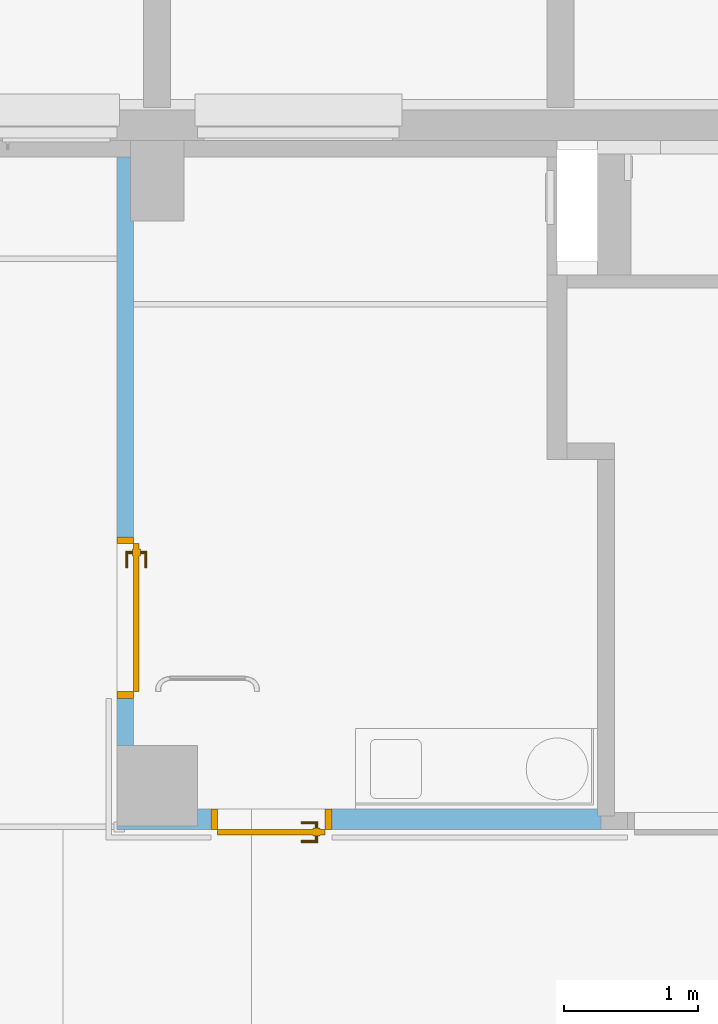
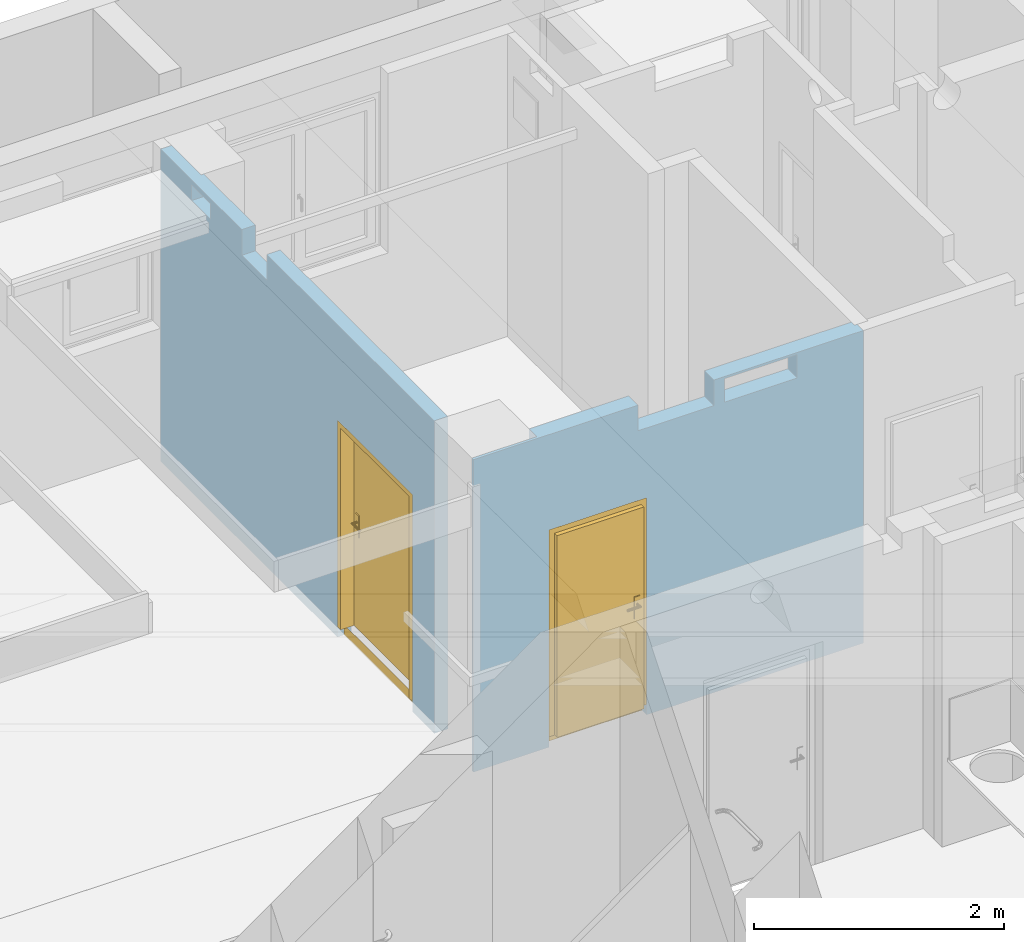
# One storey, part 63 of 84: 2 doors, 8 openings, plus 2 elements that do not belong to this part.
"""IFC4 building model written with IfcOpenShell, lengths in metres."""

from ifc_helpers import new_model, entity, si_unit, converted_unit, derived_unit, frame, frame_2d, origin, origin_with_axes, place, context, subcontext, project, spatial, polyline, rectangle, outline, extrude, closed_shell, open_shell, surface_model, source, transform, mapped, material, layer, layer_set, layer_usage, type_object, element, fill, save


model = new_model("IFC4")

# Units and contexts
model_context = context("Model", 3, precision=1e-05, world=origin())
body_context = subcontext(model_context, "Body", "Model", "MODEL_VIEW")
ifc_project = project(units=[si_unit("LENGTHUNIT", "METRE"), si_unit("AREAUNIT", "SQUARE_METRE"), si_unit("VOLUMEUNIT", "CUBIC_METRE"), si_unit("MASSUNIT", "GRAM", prefix="KILO"), converted_unit("PLANEANGLEUNIT", "DEGREE", entity("IfcPlaneAngleMeasure", 0.0174532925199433), si_unit("PLANEANGLEUNIT", "RADIAN"), dimensions=[0, 0, 0, 0, 0, 0, 0]), derived_unit("THERMALTRANSMITTANCEUNIT", [(si_unit("POWERUNIT", "WATT"), 1), (si_unit("THERMODYNAMICTEMPERATUREUNIT", "KELVIN"), -1), (si_unit("LENGTHUNIT", "METRE"), -2)]), derived_unit("VOLUMETRICFLOWRATEUNIT", [(si_unit("LENGTHUNIT", "METRE"), 3), (converted_unit("TIMEUNIT", "hour", entity("IfcTimeMeasure", 3600.0), si_unit("TIMEUNIT", "SECOND"), dimensions=[0, 0, 1, 0, 0, 0, 0]), -1), (si_unit("LENGTHUNIT", "METRE"), -1)])], contexts=[model_context])

# Site, building, storey
site_placement = place(None, origin())
site = spatial("IfcSite", under=ifc_project, at=site_placement, Name="3. ASŘ", CompositionType="ELEMENT")
building_placement = place(site_placement, origin())
building = spatial("IfcBuilding", under=site, at=building_placement, Name="Pavilon C", CompositionType="ELEMENT")
storey_placement = place(building_placement, frame((0.0, 0.0, -3.3)))
storey = spatial("IfcBuildingStorey", under=building, at=storey_placement, Name="Půdorys 1.PP", CompositionType="ELEMENT", Elevation=-3.3)

# Wall, openings, door
ifc_material_1 = material(Name="SDK - 1 KCE + DVOJITÉ OPLÁŠTĚNÍ")
ifc_layer_1 = layer(ifc_material_1, 0.125)
ifc_layer_set_1 = layer_set([ifc_layer_1])
ifc_layer_usage_1 = layer_usage(ifc_layer_set_1, "AXIS2", "POSITIVE", 0.0)
wall_1_placement = place(storey_placement, frame((17.7, 14.875, -0.1), z_axis=(0.0, 0.0, 1.0), x_axis=(0.0, -1.0, 0.0)))
wall_1 = element("IfcWall", 1, at=wall_1_placement, inside=storey, material=ifc_layer_usage_1, Name="SDK - 1 KCE + DVOJITÉ OPLÁŠTĚNÍ", context=body_context, shape_type="SweptSolid", body=[
    extrude(rectangle(XDim=4.375, YDim=0.125, at=frame_2d((2.1875, 0.0625), x_axis=(1.0, 0.0))), origin_with_axes(), (0.0, 0.0, 1.0), 3.05),
])
opening_1_placement = place(wall_1_placement, frame((4.025, 0.125, 0.0), z_axis=(0.0, -1.0, 0.0), x_axis=(0.0, 0.0, 1.0)))
opening_1 = element("IfcOpeningElement", 2, at=opening_1_placement, cuts=wall_1, Name="Dveřní otvor", ObjectType="Opening", context=body_context, shape_type="SweptSolid", body=[
    extrude(outline(polyline([(0.0, 1.2), (2.12, 1.2), (2.12, 0.0), (0.0, 0.0), (0.0, 1.2)])), origin_with_axes(), (0.0, 0.0, 1.0), 0.125),
])
opening_2_placement = place(wall_1_placement, frame((0.475, 0.125, 0.0), z_axis=(0.0, -1.0, 0.0), x_axis=(0.0, 0.0, 1.0)))
element("IfcOpeningElement", 3, at=opening_2_placement, cuts=wall_1, Name="Stěnová nika", ObjectType="Opening", context=body_context, shape_type="SweptSolid", body=[
    extrude(outline(polyline([(0.0, 0.475), (3.05, 0.475), (3.05, 0.0), (0.0, 0.0), (0.0, 0.475)])), origin_with_axes(), (0.0, 0.0, 1.0), 0.025),
])
opening_3_placement = place(wall_1_placement, frame((0.498176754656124, 0.0, 2.85), z_axis=(0.0, 1.0, 0.0), x_axis=(0.0, 0.0, 1.0)))
element("IfcOpeningElement", 4, at=opening_3_placement, cuts=wall_1, Name="UT", ObjectType="Opening", context=body_context, shape_type="SweptSolid", body=[
    extrude(outline(polyline([(0.0, 0.3), (0.15, 0.3), (0.15, 0.0), (0.0, 0.0), (0.0, 0.3)])), origin_with_axes(), (0.0, 0.0, 1.0), 0.125),
])
opening_4_placement = place(wall_1_placement, frame((1.29817675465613, 0.0, 2.8), z_axis=(0.0, 1.0, 0.0), x_axis=(0.0, 0.0, 1.0)))
element("IfcOpeningElement", 5, at=opening_4_placement, cuts=wall_1, Name="VZT", ObjectType="Opening", context=body_context, shape_type="SweptSolid", body=[
    extrude(outline(polyline([(0.0, 0.4), (0.25, 0.4), (0.25, 0.0), (0.0, 0.0), (0.0, 0.4)])), origin_with_axes(), (0.0, 0.0, 1.0), 0.125),
])
door_type_1 = type_object("IfcDoorType", Name="I.D008", OperationType="NOTDEFINED", ParameterTakesPrecedence=False, PredefinedType="DOOR")
shared_shape_1 = source(origin_with_axes(), body_context, "Body", "SurfaceModel", [
    surface_model("IfcShellBasedSurfaceModel", [(0.0, 0.0625, 0.0), (1.2, 0.0625, 0.0), (1.2, 0.0625, 0.1), (0.0, 0.0625, 0.1)], [open_shell([[[0, 1, 2, 3]]], orient=[[False]])]),
    surface_model("IfcShellBasedSurfaceModel", [(0.0, 0.125, 2.12), (0.0, 0.125, 0.101), (0.05, 0.125, 0.101), (0.05, 0.125, 2.12), (0.0, 0.0, 0.101), (0.0, 2.41584530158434e-16, 2.12), (0.05, 2.41584530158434e-16, 2.12), (0.05, 0.0, 0.101)], [closed_shell([[[0, 1, 2, 3]], [[4, 5, 6, 7]], [[1, 0, 5, 4]], [[2, 1, 4, 7]], [[3, 2, 7, 6]], [[0, 3, 6, 5]]], orient=[[False], [False], [False], [False], [False], [False]])]),
    surface_model("IfcShellBasedSurfaceModel", [(1.15, 0.125, 2.12), (1.15, 0.125, 0.101), (1.2, 0.125, 0.101), (1.2, 0.125, 2.12), (1.15, 0.0, 0.101), (1.15, 2.41584530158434e-16, 2.12), (1.2, 2.41584530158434e-16, 2.12), (1.2, 0.0, 0.101)], [closed_shell([[[0, 1, 2, 3]], [[4, 5, 6, 7]], [[1, 0, 5, 4]], [[2, 1, 4, 7]], [[3, 2, 7, 6]], [[0, 3, 6, 5]]], orient=[[False], [False], [False], [False], [False], [False]])]),
    surface_model("IfcShellBasedSurfaceModel", [(0.05, 0.125, 2.12), (0.05, 0.125, 2.07), (1.15, 0.125, 2.07), (1.15, 0.125, 2.12), (0.05, 2.41584530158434e-16, 2.07), (0.05, 2.41584530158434e-16, 2.12), (1.15, 2.41584530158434e-16, 2.12), (1.15, 2.41584530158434e-16, 2.07)], [closed_shell([[[0, 1, 2, 3]], [[4, 5, 6, 7]], [[1, 0, 5, 4]], [[2, 1, 4, 7]], [[3, 2, 7, 6]], [[0, 3, 6, 5]]], orient=[[False], [False], [False], [False], [False], [False]])]),
    surface_model("IfcShellBasedSurfaceModel", [(0.05, 0.165, 2.07), (0.05, 0.165, 0.101), (1.15, 0.165, 0.101), (1.15, 0.165, 2.07), (0.05, 0.125, 0.101), (0.05, 0.125, 2.07), (1.15, 0.125, 2.07), (1.15, 0.125, 0.101)], [closed_shell([[[0, 1, 2, 3]], [[4, 5, 6, 7]], [[1, 0, 5, 4]], [[2, 1, 4, 7]], [[3, 2, 7, 6]], [[0, 3, 6, 5]]], orient=[[False], [False], [False], [False], [False], [False]])]),
    surface_model("IfcShellBasedSurfaceModel", [(0.09, 0.125, 1.226), (0.09, 0.125, 1.011), (0.14, 0.125, 1.011), (0.14, 0.125, 1.226), (0.09, 0.115, 1.011), (0.09, 0.115, 1.226), (0.14, 0.115, 1.226), (0.14, 0.115, 1.011)], [closed_shell([[[0, 1, 2, 3]], [[4, 5, 6, 7]], [[1, 0, 5, 4]], [[2, 1, 4, 7]], [[3, 2, 7, 6]], [[0, 3, 6, 5]]], orient=[[False], [False], [False], [False], [False], [False]])]),
    surface_model("IfcShellBasedSurfaceModel", [(0.115, 0.115, 1.161), (0.11, 0.115, 1.15966025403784), (0.106339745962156, 0.115, 1.156), (0.105, 0.115, 1.151), (0.106339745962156, 0.115, 1.146), (0.11, 0.115, 1.14233974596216), (0.115, 0.115, 1.141), (0.12, 0.115, 1.14233974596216), (0.123660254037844, 0.115, 1.146), (0.125, 0.115, 1.151), (0.123660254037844, 0.115, 1.156), (0.12, 0.115, 1.15966025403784), (0.115, 0.0750000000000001, 1.161), (0.11, 0.0700000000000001, 1.15966025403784), (0.106339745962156, 0.0663397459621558, 1.156), (0.105, 0.0650000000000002, 1.151), (0.106339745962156, 0.0663397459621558, 1.146), (0.11, 0.0700000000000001, 1.14233974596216), (0.115, 0.0750000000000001, 1.141), (0.12, 0.0800000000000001, 1.14233974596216), (0.123660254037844, 0.0836602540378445, 1.146), (0.125, 0.0850000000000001, 1.151), (0.123660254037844, 0.0836602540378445, 1.156), (0.12, 0.0800000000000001, 1.15966025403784), (0.23, 0.0750000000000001, 1.161), (0.23, 0.0700000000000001, 1.15966025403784), (0.23, 0.0663397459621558, 1.156), (0.23, 0.0650000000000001, 1.151), (0.23, 0.0663397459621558, 1.146), (0.23, 0.0700000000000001, 1.14233974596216), (0.23, 0.0750000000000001, 1.141), (0.23, 0.0800000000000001, 1.14233974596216), (0.23, 0.0836602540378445, 1.146), (0.23, 0.0850000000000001, 1.151), (0.23, 0.0836602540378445, 1.156), (0.23, 0.0800000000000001, 1.15966025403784)], [open_shell([[[0, 1, 2, 3, 4, 5, 6, 7, 8, 9, 10, 11]], [[0, 12, 13, 1]], [[1, 13, 14, 2]], [[2, 14, 15, 3]], [[3, 15, 16, 4]], [[4, 16, 17, 5]], [[5, 17, 18, 6]], [[6, 18, 19, 7]], [[7, 19, 20, 8]], [[8, 20, 21, 9]], [[9, 21, 22, 10]], [[10, 22, 23, 11]], [[11, 23, 12, 0]], [[12, 24, 25, 13]], [[13, 25, 26, 14]], [[14, 26, 27, 15]], [[15, 27, 28, 16]], [[16, 28, 29, 17]], [[17, 29, 30, 18]], [[18, 30, 31, 19]], [[19, 31, 32, 20]], [[20, 32, 33, 21]], [[21, 33, 34, 22]], [[22, 34, 35, 23]], [[23, 35, 24, 12]]], orient=[[False], [False], [False], [False], [False], [False], [False], [False], [False], [False], [False], [False], [False], [False], [False], [False], [False], [False], [False], [False], [False], [False], [False], [False], [False]])]),
    surface_model("IfcShellBasedSurfaceModel", [(0.09, 0.165, 1.226), (0.14, 0.165, 1.226), (0.14, 0.165, 1.011), (0.09, 0.165, 1.011), (0.09, 0.175, 1.011), (0.14, 0.175, 1.011), (0.14, 0.175, 1.226), (0.09, 0.175, 1.226)], [closed_shell([[[0, 1, 2, 3]], [[4, 5, 6, 7]], [[3, 4, 7, 0]], [[2, 5, 4, 3]], [[1, 6, 5, 2]], [[0, 7, 6, 1]]], orient=[[False], [False], [False], [False], [False], [False]])]),
    surface_model("IfcShellBasedSurfaceModel", [(0.115, 0.175, 1.161), (0.12, 0.175, 1.15966025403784), (0.123660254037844, 0.175, 1.156), (0.125, 0.175, 1.151), (0.123660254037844, 0.175, 1.146), (0.12, 0.175, 1.14233974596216), (0.115, 0.175, 1.141), (0.11, 0.175, 1.14233974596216), (0.106339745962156, 0.175, 1.146), (0.105, 0.175, 1.151), (0.106339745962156, 0.175, 1.156), (0.11, 0.175, 1.15966025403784), (0.11, 0.22, 1.15966025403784), (0.115, 0.215, 1.161), (0.106339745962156, 0.223660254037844, 1.156), (0.105, 0.225, 1.151), (0.106339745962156, 0.223660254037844, 1.146), (0.11, 0.22, 1.14233974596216), (0.115, 0.215, 1.141), (0.12, 0.21, 1.14233974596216), (0.123660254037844, 0.206339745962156, 1.146), (0.125, 0.205, 1.151), (0.123660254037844, 0.206339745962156, 1.156), (0.12, 0.21, 1.15966025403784), (0.23, 0.22, 1.15966025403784), (0.23, 0.215, 1.161), (0.23, 0.223660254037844, 1.156), (0.23, 0.225, 1.151), (0.23, 0.223660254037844, 1.146), (0.23, 0.22, 1.14233974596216), (0.23, 0.215, 1.141), (0.23, 0.21, 1.14233974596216), (0.23, 0.206339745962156, 1.146), (0.23, 0.205, 1.151), (0.23, 0.206339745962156, 1.156), (0.23, 0.21, 1.15966025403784)], [open_shell([[[0, 1, 2, 3, 4, 5, 6, 7, 8, 9, 10, 11]], [[0, 11, 12, 13]], [[11, 10, 14, 12]], [[10, 9, 15, 14]], [[9, 8, 16, 15]], [[8, 7, 17, 16]], [[7, 6, 18, 17]], [[6, 5, 19, 18]], [[5, 4, 20, 19]], [[4, 3, 21, 20]], [[3, 2, 22, 21]], [[2, 1, 23, 22]], [[1, 0, 13, 23]], [[13, 12, 24, 25]], [[12, 14, 26, 24]], [[14, 15, 27, 26]], [[15, 16, 28, 27]], [[16, 17, 29, 28]], [[17, 18, 30, 29]], [[18, 19, 31, 30]], [[19, 20, 32, 31]], [[20, 21, 33, 32]], [[21, 22, 34, 33]], [[22, 23, 35, 34]], [[23, 13, 25, 35]]], orient=[[False], [False], [False], [False], [False], [False], [False], [False], [False], [False], [False], [False], [False], [False], [False], [False], [False], [False], [False], [False], [False], [False], [False], [False], [False]])]),
])
door_1_placement = place(opening_1_placement, frame((0.0, 1.2, 0.125000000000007), z_axis=(1.0, 0.0, 0.0), x_axis=(0.0, -1.0, 2.44929359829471e-16)))
door_1 = element("IfcDoor", 6, at=door_1_placement, inside=storey, type_object=door_type_1, Name="I.D008", OverallHeight=2.12, OverallWidth=1.2, context=body_context, shape_type="MappedRepresentation", body=[
    mapped(shared_shape_1, transform((0.0, 0.0, 0.0), x_axis=(1.0, 0.0, 0.0), y_axis=(0.0, 1.0, 0.0), z_axis=(0.0, 0.0, 1.0), scale=1.0)),
])
fill(opening_1, door_1)

ifc_material_2 = material(Name="SDK - 1 KCE + DVOJITÉ OPLÁŠTĚNÍ")
ifc_layer_2 = layer(ifc_material_2, 0.15)
ifc_layer_set_2 = layer_set([ifc_layer_2])
ifc_layer_usage_2 = layer_usage(ifc_layer_set_2, "AXIS2", "POSITIVE", 0.0)
wall_2_placement = place(storey_placement, frame((17.7, 9.875, -0.1)))
wall_2 = element("IfcWall", 7, at=wall_2_placement, inside=storey, material=ifc_layer_usage_2, Name="SDK - 1 KCE + DVOJITÉ OPLÁŠTĚNÍ", context=body_context, shape_type="SweptSolid", body=[
    extrude(outline(polyline([(0.0, 0.0), (3.6, 0.0), (3.6, 0.1), (3.575, 0.1), (3.575, 0.15), (0.0, 0.15), (0.0, 0.0)])), origin_with_axes(), (0.0, 0.0, 1.0), 3.05),
])
opening_5_placement = place(wall_2_placement, frame((0.700000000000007, 0.0, 0.0), z_axis=(0.0, 1.0, 0.0), x_axis=(0.0, 0.0, 1.0)))
opening_5 = element("IfcOpeningElement", 8, at=opening_5_placement, cuts=wall_2, Name="Dveřní otvor", ObjectType="Opening", context=body_context, shape_type="SweptSolid", body=[
    extrude(outline(polyline([(0.0, 0.9), (2.12, 0.9), (2.12, 0.0), (0.0, 0.0), (0.0, 0.9)])), origin_with_axes(), (0.0, 0.0, 1.0), 0.15),
])
opening_6_placement = place(wall_2_placement, frame((0.600000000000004, 0.15, 0.0), z_axis=(0.0, -1.0, 0.0), x_axis=(0.0, 0.0, 1.0)))
element("IfcOpeningElement", 9, at=opening_6_placement, cuts=wall_2, Name="Prostup stěnou", ObjectType="Opening", context=body_context, shape_type="SweptSolid", body=[
    extrude(outline(polyline([(0.0, 0.600000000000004), (3.05, 0.600000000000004), (3.05, 0.0), (0.0, 0.0), (0.0, 0.600000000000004)])), origin_with_axes(), (0.0, 0.0, 1.0), 0.125),
])
opening_7_placement = place(wall_2_placement, frame((2.21889999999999, 0.15, 2.8), z_axis=(0.0, -1.0, 0.0), x_axis=(0.0, 0.0, 1.0)))
element("IfcOpeningElement", 10, at=opening_7_placement, cuts=wall_2, Name="VZT", ObjectType="Opening", context=body_context, shape_type="SweptSolid", body=[
    extrude(outline(polyline([(0.0, 0.7), (0.25, 0.7), (0.25, 0.0), (0.0, 0.0), (0.0, 0.7)])), origin_with_axes(), (0.0, 0.0, 1.0), 0.15),
])
opening_8_placement = place(wall_2_placement, frame((2.98889999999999, 0.15, 2.8), z_axis=(0.0, -1.0, 0.0), x_axis=(0.0, 0.0, 1.0)))
element("IfcOpeningElement", 11, at=opening_8_placement, cuts=wall_2, Name="UT+ZTI", ObjectType="Opening", context=body_context, shape_type="SweptSolid", body=[
    extrude(outline(polyline([(0.0, 0.67), (0.23, 0.67), (0.23, 0.0), (0.0, 0.0), (0.0, 0.67)])), origin_with_axes(), (0.0, 0.0, 1.0), 0.15),
])
door_type_2 = type_object("IfcDoorType", Name="I.D009", OperationType="NOTDEFINED", ParameterTakesPrecedence=False, PredefinedType="DOOR")
shared_shape_2 = source(origin_with_axes(), body_context, "Body", "SurfaceModel", [
    surface_model("IfcShellBasedSurfaceModel", [(0.0, 0.075, 0.0), (0.9, 0.075, 0.0), (0.9, 0.075, 0.1), (0.0, 0.075, 0.1)], [open_shell([[[0, 1, 2, 3]]], orient=[[False]])]),
    surface_model("IfcShellBasedSurfaceModel", [(0.0, 0.15, 2.12), (0.0, 0.15, 0.101), (0.05, 0.15, 0.101), (0.05, 0.15, 2.12), (0.0, 0.0, 0.101), (0.0, 2.55795384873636e-16, 2.12), (0.05, 2.55795384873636e-16, 2.12), (0.05, 0.0, 0.101)], [closed_shell([[[0, 1, 2, 3]], [[4, 5, 6, 7]], [[1, 0, 5, 4]], [[2, 1, 4, 7]], [[3, 2, 7, 6]], [[0, 3, 6, 5]]], orient=[[False], [False], [False], [False], [False], [False]])]),
    surface_model("IfcShellBasedSurfaceModel", [(0.85, 0.15, 2.12), (0.85, 0.15, 0.101), (0.9, 0.15, 0.101), (0.9, 0.15, 2.12), (0.85, 0.0, 0.101), (0.85, 2.55795384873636e-16, 2.12), (0.9, 2.55795384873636e-16, 2.12), (0.9, 0.0, 0.101)], [closed_shell([[[0, 1, 2, 3]], [[4, 5, 6, 7]], [[1, 0, 5, 4]], [[2, 1, 4, 7]], [[3, 2, 7, 6]], [[0, 3, 6, 5]]], orient=[[False], [False], [False], [False], [False], [False]])]),
    surface_model("IfcShellBasedSurfaceModel", [(0.05, 0.15, 2.12), (0.05, 0.15, 2.07), (0.85, 0.15, 2.07), (0.85, 0.15, 2.12), (0.05, 2.27373675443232e-16, 2.07), (0.05, 2.27373675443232e-16, 2.12), (0.85, 2.27373675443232e-16, 2.12), (0.85, 2.27373675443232e-16, 2.07)], [closed_shell([[[0, 1, 2, 3]], [[4, 5, 6, 7]], [[1, 0, 5, 4]], [[2, 1, 4, 7]], [[3, 2, 7, 6]], [[0, 3, 6, 5]]], orient=[[False], [False], [False], [False], [False], [False]])]),
    surface_model("IfcShellBasedSurfaceModel", [(0.05, 0.19, 2.07), (0.05, 0.19, 0.101), (0.85, 0.19, 0.101), (0.85, 0.19, 2.07), (0.05, 0.15, 0.101), (0.05, 0.15, 2.07), (0.85, 0.15, 2.07), (0.85, 0.15, 0.101)], [closed_shell([[[0, 1, 2, 3]], [[4, 5, 6, 7]], [[1, 0, 5, 4]], [[2, 1, 4, 7]], [[3, 2, 7, 6]], [[0, 3, 6, 5]]], orient=[[False], [False], [False], [False], [False], [False]])]),
    surface_model("IfcShellBasedSurfaceModel", [(0.09, 0.15, 1.226), (0.09, 0.15, 1.011), (0.14, 0.15, 1.011), (0.14, 0.15, 1.226), (0.09, 0.14, 1.011), (0.09, 0.14, 1.226), (0.14, 0.14, 1.226), (0.14, 0.14, 1.011)], [closed_shell([[[0, 1, 2, 3]], [[4, 5, 6, 7]], [[1, 0, 5, 4]], [[2, 1, 4, 7]], [[3, 2, 7, 6]], [[0, 3, 6, 5]]], orient=[[False], [False], [False], [False], [False], [False]])]),
    surface_model("IfcShellBasedSurfaceModel", [(0.115, 0.14, 1.161), (0.11, 0.14, 1.15966025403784), (0.106339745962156, 0.14, 1.156), (0.105, 0.14, 1.151), (0.106339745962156, 0.14, 1.146), (0.11, 0.14, 1.14233974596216), (0.115, 0.14, 1.141), (0.12, 0.14, 1.14233974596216), (0.123660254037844, 0.14, 1.146), (0.125, 0.14, 1.151), (0.123660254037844, 0.14, 1.156), (0.12, 0.14, 1.15966025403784), (0.115, 0.1, 1.161), (0.11, 0.0950000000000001, 1.15966025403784), (0.106339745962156, 0.0913397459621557, 1.156), (0.105, 0.0900000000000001, 1.151), (0.106339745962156, 0.0913397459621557, 1.146), (0.11, 0.0950000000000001, 1.14233974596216), (0.115, 0.1, 1.141), (0.12, 0.105, 1.14233974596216), (0.123660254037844, 0.108660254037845, 1.146), (0.125, 0.11, 1.151), (0.123660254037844, 0.108660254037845, 1.156), (0.12, 0.105, 1.15966025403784), (0.23, 0.1, 1.161), (0.23, 0.0950000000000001, 1.15966025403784), (0.23, 0.0913397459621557, 1.156), (0.23, 0.0900000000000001, 1.151), (0.23, 0.0913397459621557, 1.146), (0.23, 0.0950000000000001, 1.14233974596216), (0.23, 0.1, 1.141), (0.23, 0.105, 1.14233974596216), (0.23, 0.108660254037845, 1.146), (0.23, 0.11, 1.151), (0.23, 0.108660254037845, 1.156), (0.23, 0.105, 1.15966025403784)], [open_shell([[[0, 1, 2, 3, 4, 5, 6, 7, 8, 9, 10, 11]], [[0, 12, 13, 1]], [[1, 13, 14, 2]], [[2, 14, 15, 3]], [[3, 15, 16, 4]], [[4, 16, 17, 5]], [[5, 17, 18, 6]], [[6, 18, 19, 7]], [[7, 19, 20, 8]], [[8, 20, 21, 9]], [[9, 21, 22, 10]], [[10, 22, 23, 11]], [[11, 23, 12, 0]], [[12, 24, 25, 13]], [[13, 25, 26, 14]], [[14, 26, 27, 15]], [[15, 27, 28, 16]], [[16, 28, 29, 17]], [[17, 29, 30, 18]], [[18, 30, 31, 19]], [[19, 31, 32, 20]], [[20, 32, 33, 21]], [[21, 33, 34, 22]], [[22, 34, 35, 23]], [[23, 35, 24, 12]]], orient=[[False], [False], [False], [False], [False], [False], [False], [False], [False], [False], [False], [False], [False], [False], [False], [False], [False], [False], [False], [False], [False], [False], [False], [False], [False]])]),
    surface_model("IfcShellBasedSurfaceModel", [(0.09, 0.19, 1.226), (0.14, 0.19, 1.226), (0.14, 0.19, 1.011), (0.09, 0.19, 1.011), (0.09, 0.2, 1.011), (0.14, 0.2, 1.011), (0.14, 0.2, 1.226), (0.09, 0.2, 1.226)], [closed_shell([[[0, 1, 2, 3]], [[4, 5, 6, 7]], [[3, 4, 7, 0]], [[2, 5, 4, 3]], [[1, 6, 5, 2]], [[0, 7, 6, 1]]], orient=[[False], [False], [False], [False], [False], [False]])]),
    surface_model("IfcShellBasedSurfaceModel", [(0.115, 0.2, 1.161), (0.12, 0.2, 1.15966025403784), (0.123660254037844, 0.2, 1.156), (0.125, 0.2, 1.151), (0.123660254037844, 0.2, 1.146), (0.12, 0.2, 1.14233974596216), (0.115, 0.2, 1.141), (0.11, 0.2, 1.14233974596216), (0.106339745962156, 0.2, 1.146), (0.105, 0.2, 1.151), (0.106339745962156, 0.2, 1.156), (0.11, 0.2, 1.15966025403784), (0.11, 0.245, 1.15966025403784), (0.115, 0.24, 1.161), (0.106339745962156, 0.248660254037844, 1.156), (0.105, 0.25, 1.151), (0.106339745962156, 0.248660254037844, 1.146), (0.11, 0.245, 1.14233974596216), (0.115, 0.24, 1.141), (0.12, 0.235, 1.14233974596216), (0.123660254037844, 0.231339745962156, 1.146), (0.125, 0.23, 1.151), (0.123660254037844, 0.231339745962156, 1.156), (0.12, 0.235, 1.15966025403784), (0.23, 0.245, 1.15966025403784), (0.23, 0.24, 1.161), (0.23, 0.248660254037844, 1.156), (0.23, 0.25, 1.151), (0.23, 0.248660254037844, 1.146), (0.23, 0.245, 1.14233974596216), (0.23, 0.24, 1.141), (0.23, 0.235, 1.14233974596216), (0.23, 0.231339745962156, 1.146), (0.23, 0.23, 1.151), (0.23, 0.231339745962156, 1.156), (0.23, 0.235, 1.15966025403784)], [open_shell([[[0, 1, 2, 3, 4, 5, 6, 7, 8, 9, 10, 11]], [[0, 11, 12, 13]], [[11, 10, 14, 12]], [[10, 9, 15, 14]], [[9, 8, 16, 15]], [[8, 7, 17, 16]], [[7, 6, 18, 17]], [[6, 5, 19, 18]], [[5, 4, 20, 19]], [[4, 3, 21, 20]], [[3, 2, 22, 21]], [[2, 1, 23, 22]], [[1, 0, 13, 23]], [[13, 12, 24, 25]], [[12, 14, 26, 24]], [[14, 15, 27, 26]], [[15, 16, 28, 27]], [[16, 17, 29, 28]], [[17, 18, 30, 29]], [[18, 19, 31, 30]], [[19, 20, 32, 31]], [[20, 21, 33, 32]], [[21, 22, 34, 33]], [[22, 23, 35, 34]], [[23, 13, 25, 35]]], orient=[[False], [False], [False], [False], [False], [False], [False], [False], [False], [False], [False], [False], [False], [False], [False], [False], [False], [False], [False], [False], [False], [False], [False], [False], [False]])]),
])
door_2_placement = place(opening_5_placement, frame((0.0, 0.9, 0.15), z_axis=(1.0, 0.0, 0.0), x_axis=(0.0, -1.0, 1.22464679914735e-16)))
door_2 = element("IfcDoor", 12, at=door_2_placement, inside=storey, type_object=door_type_2, Name="I.D009", OverallHeight=2.12, OverallWidth=0.9, context=body_context, shape_type="MappedRepresentation", body=[
    mapped(shared_shape_2, transform((0.0, 0.0, 0.0), x_axis=(1.0, 0.0, 0.0), y_axis=(0.0, 1.0, 0.0), z_axis=(0.0, 0.0, 1.0), scale=1.0)),
])
fill(opening_5, door_2)

save(model, "model.ifc")
